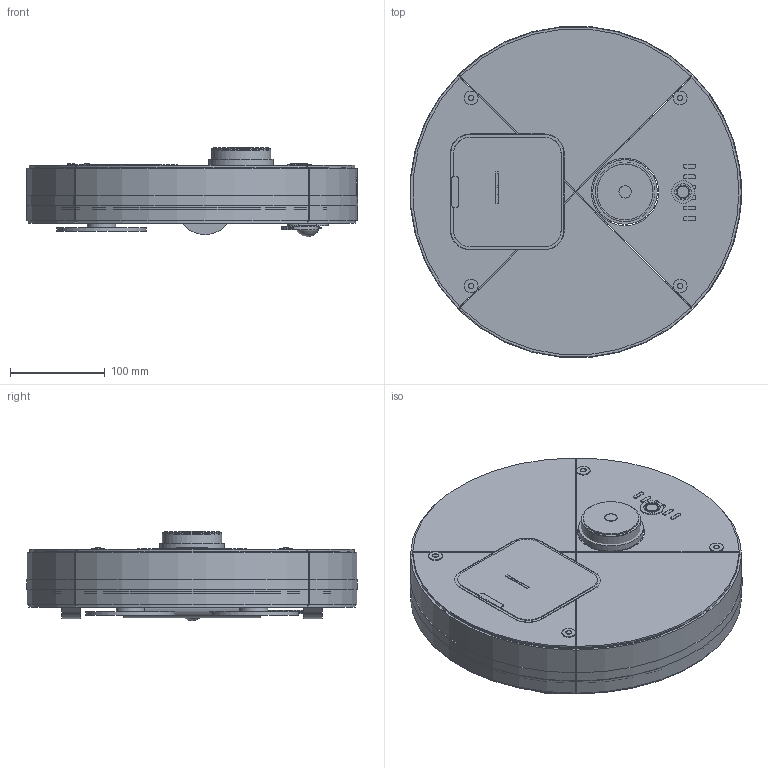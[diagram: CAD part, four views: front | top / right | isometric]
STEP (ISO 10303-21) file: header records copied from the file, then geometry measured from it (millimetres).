
FILE_DESCRIPTION(('FreeCAD Model'),'2;1');
FILE_NAME('Open CASCADE Shape Model','2026-10-27T15:01:02',('FreeCAD'),( 'FreeCAD'),'Open CASCADE STEP processor 7.8','FreeCAD','Unknown');
FILE_SCHEMA(('AUTOMOTIVE_DESIGN { 1 0 10303 214 1 1 1 1 }'));
Length unit declared in the file: millimetre
Products named in the file (1): Open CASCADE STEP translator 7.8 2
Bounding box: 348.84 x 348.18 x 94.15 mm (x, y, z)
Volume: 1688962.9 mm3; surface area: 683522.2 mm2
Topology: 105 solids, 105 shells, 705 faces, 1416 edges, 949 vertices
Faces by surface type: plane 486, cylinder 217, torus 1, sphere 1
Full cylindrical faces by diameter (mm): 2.4 x4, 2.9 x4, 3 x8, 3.6 x4, 4 x12, 5.8 x4, 12.4 x1, 13 x1, 13.8 x1, 14.4 x4, 17.2 x1, 23 x1, 23.2 x1, 24 x3, 27 x1, 30 x2, 31.6 x2, 32 x1, 39 x1, 42 x1, 52 x1, 58 x1, 58.6 x1, 58.8 x1, 60 x2, 62.4 x1, 68 x1, 71 x1, 94 x2
Entity records: 18753 total; most frequent: CARTESIAN_POINT 3655, DIRECTION 3261, ORIENTED_EDGE 2826, EDGE_CURVE 1413, AXIS2_PLACEMENT_3D 1154, LINE 953, VECTOR 953, VERTEX_POINT 948
